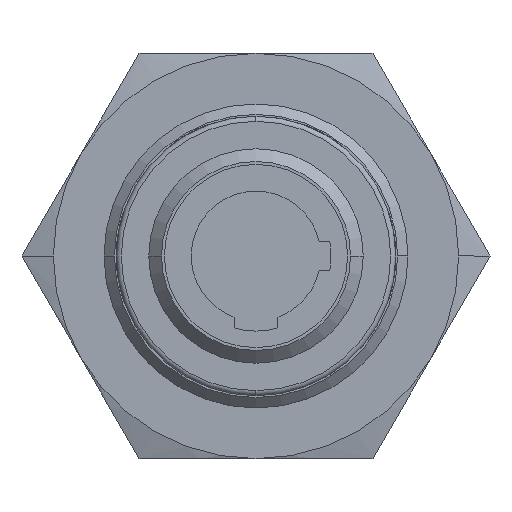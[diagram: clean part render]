
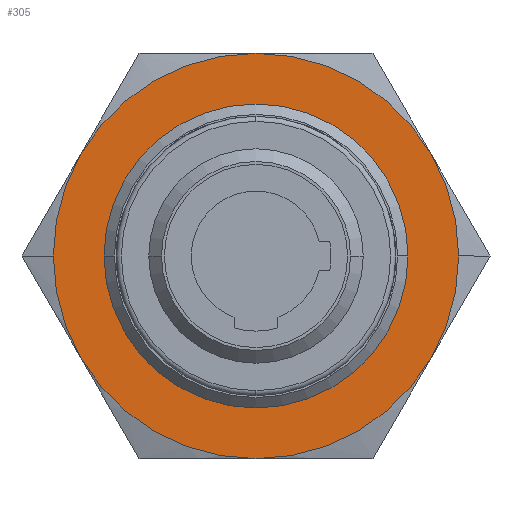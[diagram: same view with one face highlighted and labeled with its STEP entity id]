
A CAD part, left-side view. The second image highlights one B-rep face of the part: STEP entity #305.
In plain terms, the highlighted planar face has unit normal (-1, 0, 0).
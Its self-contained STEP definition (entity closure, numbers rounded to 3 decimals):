
#305 = ADVANCED_FACE( '', ( #620, #621 ), #622, .T. );
#620 = FACE_BOUND( '', #968, .T. );
#621 = FACE_OUTER_BOUND( '', #969, .T. );
#622 = PLANE( '', #970 );
#968 = EDGE_LOOP( '', ( #2045, #2046 ) );
#969 = EDGE_LOOP( '', ( #2047, #2048, #2049, #2050, #2051, #2052, #2053, #2054 ) );
#970 = AXIS2_PLACEMENT_3D( '', #2055, #2056, #2057 );
#2045 = ORIENTED_EDGE( '', *, *, #2547, .T. );
#2046 = ORIENTED_EDGE( '', *, *, #2535, .T. );
#2047 = ORIENTED_EDGE( '', *, *, #2585, .T. );
#2048 = ORIENTED_EDGE( '', *, *, #2524, .T. );
#2049 = ORIENTED_EDGE( '', *, *, #2580, .T. );
#2050 = ORIENTED_EDGE( '', *, *, #2581, .T. );
#2051 = ORIENTED_EDGE( '', *, *, #2526, .T. );
#2052 = ORIENTED_EDGE( '', *, *, #2582, .T. );
#2053 = ORIENTED_EDGE( '', *, *, #2583, .T. );
#2054 = ORIENTED_EDGE( '', *, *, #2584, .T. );
#2055 = CARTESIAN_POINT( '', ( 55., 6., 0. ) );
#2056 = DIRECTION( '', ( -1., 0., 0. ) );
#2057 = DIRECTION( '', ( 0., 1., 0. ) );
#2524 = EDGE_CURVE( '', #3054, #3056, #3058, .T. );
#2526 = EDGE_CURVE( '', #3062, #3059, #3063, .T. );
#2535 = EDGE_CURVE( '', #3080, #3077, #3081, .T. );
#2547 = EDGE_CURVE( '', #3077, #3080, #3098, .T. );
#2580 = EDGE_CURVE( '', #3056, #3104, #3147, .T. );
#2581 = EDGE_CURVE( '', #3104, #3062, #3148, .T. );
#2582 = EDGE_CURVE( '', #3059, #3135, #3149, .T. );
#2583 = EDGE_CURVE( '', #3135, #3127, #3150, .T. );
#2584 = EDGE_CURVE( '', #3127, #3114, #3151, .T. );
#2585 = EDGE_CURVE( '', #3114, #3054, #3152, .T. );
#3054 = VERTEX_POINT( '', #4110 );
#3056 = VERTEX_POINT( '', #4113 );
#3058 = CIRCLE( '', #4124, 12. );
#3059 = VERTEX_POINT( '', #4125 );
#3062 = VERTEX_POINT( '', #4129 );
#3063 = CIRCLE( '', #4130, 12. );
#3077 = VERTEX_POINT( '', #4173 );
#3080 = VERTEX_POINT( '', #4177 );
#3081 = CIRCLE( '', #4178, 9. );
#3098 = CIRCLE( '', #4200, 9. );
#3104 = VERTEX_POINT( '', #4216 );
#3114 = VERTEX_POINT( '', #4264 );
#3127 = VERTEX_POINT( '', #4341 );
#3135 = VERTEX_POINT( '', #4386 );
#3147 = CIRCLE( '', #4435, 12. );
#3148 = CIRCLE( '', #4436, 12. );
#3149 = CIRCLE( '', #4437, 12. );
#3150 = CIRCLE( '', #4438, 12. );
#3151 = CIRCLE( '', #4439, 12. );
#3152 = CIRCLE( '', #4440, 12. );
#4110 = CARTESIAN_POINT( '', ( 55., 12., 0. ) );
#4113 = CARTESIAN_POINT( '', ( 55., 10.392, -6. ) );
#4124 = AXIS2_PLACEMENT_3D( '', #5234, #5235, #5236 );
#4125 = CARTESIAN_POINT( '', ( 55., -12., 0. ) );
#4129 = CARTESIAN_POINT( '', ( 55., -10.392, -6. ) );
#4130 = AXIS2_PLACEMENT_3D( '', #5238, #5239, #5240 );
#4173 = CARTESIAN_POINT( '', ( 55., 9., 0. ) );
#4177 = CARTESIAN_POINT( '', ( 55., -9., 0. ) );
#4178 = AXIS2_PLACEMENT_3D( '', #5250, #5251, #5252 );
#4200 = AXIS2_PLACEMENT_3D( '', #5276, #5277, #5278 );
#4216 = CARTESIAN_POINT( '', ( 55., 0., -12. ) );
#4264 = CARTESIAN_POINT( '', ( 55., 10.392, 6. ) );
#4341 = CARTESIAN_POINT( '', ( 55., 0., 12. ) );
#4386 = CARTESIAN_POINT( '', ( 55., -10.392, 6. ) );
#4435 = AXIS2_PLACEMENT_3D( '', #5303, #5304, #5305 );
#4436 = AXIS2_PLACEMENT_3D( '', #5306, #5307, #5308 );
#4437 = AXIS2_PLACEMENT_3D( '', #5309, #5310, #5311 );
#4438 = AXIS2_PLACEMENT_3D( '', #5312, #5313, #5314 );
#4439 = AXIS2_PLACEMENT_3D( '', #5315, #5316, #5317 );
#4440 = AXIS2_PLACEMENT_3D( '', #5318, #5319, #5320 );
#5234 = CARTESIAN_POINT( '', ( 55., 0., 0. ) );
#5235 = DIRECTION( '', ( -1., 0., 0. ) );
#5236 = DIRECTION( '', ( 0., 1., 0. ) );
#5238 = CARTESIAN_POINT( '', ( 55., 0., 0. ) );
#5239 = DIRECTION( '', ( -1., 0., 0. ) );
#5240 = DIRECTION( '', ( 0., 1., 0. ) );
#5250 = CARTESIAN_POINT( '', ( 55., 0., 0. ) );
#5251 = DIRECTION( '', ( 1., 0., 0. ) );
#5252 = DIRECTION( '', ( 0., 1., 0. ) );
#5276 = CARTESIAN_POINT( '', ( 55., 0., 0. ) );
#5277 = DIRECTION( '', ( 1., 0., 0. ) );
#5278 = DIRECTION( '', ( 0., 1., 0. ) );
#5303 = CARTESIAN_POINT( '', ( 55., 0., 0. ) );
#5304 = DIRECTION( '', ( -1., 0., 0. ) );
#5305 = DIRECTION( '', ( 0., 1., 0. ) );
#5306 = CARTESIAN_POINT( '', ( 55., 0., 0. ) );
#5307 = DIRECTION( '', ( -1., 0., 0. ) );
#5308 = DIRECTION( '', ( 0., 1., 0. ) );
#5309 = CARTESIAN_POINT( '', ( 55., 0., 0. ) );
#5310 = DIRECTION( '', ( -1., 0., 0. ) );
#5311 = DIRECTION( '', ( 0., 1., 0. ) );
#5312 = CARTESIAN_POINT( '', ( 55., 0., 0. ) );
#5313 = DIRECTION( '', ( -1., 0., 0. ) );
#5314 = DIRECTION( '', ( 0., 1., 0. ) );
#5315 = CARTESIAN_POINT( '', ( 55., 0., 0. ) );
#5316 = DIRECTION( '', ( -1., 0., 0. ) );
#5317 = DIRECTION( '', ( 0., 1., 0. ) );
#5318 = CARTESIAN_POINT( '', ( 55., 0., 0. ) );
#5319 = DIRECTION( '', ( -1., 0., 0. ) );
#5320 = DIRECTION( '', ( 0., 1., 0. ) );
